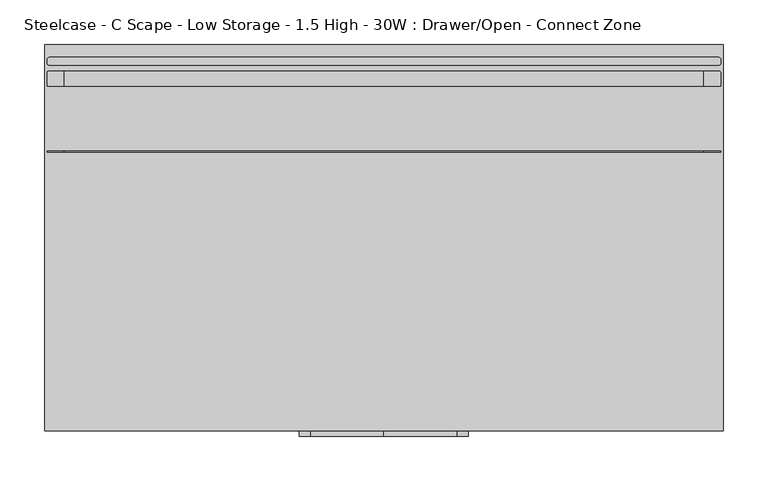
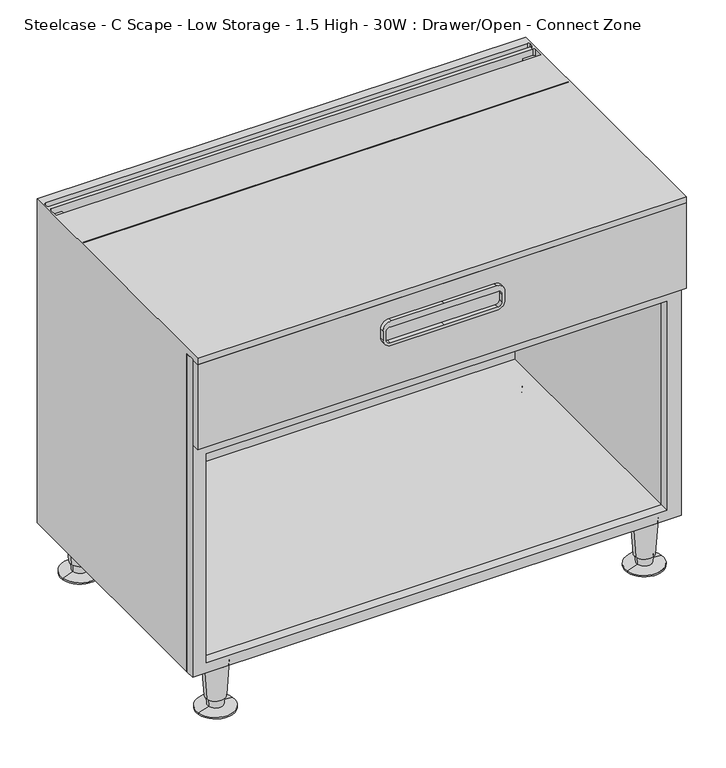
"""IFC4 building model written with IfcOpenShell, lengths in millimetres: furniture geometry, Steelcase - C Scape - Low Storage - 1.5 High - 30W : Drawer/Open - Connect Zone."""

from ifc_helpers import new_model, si_unit, point, frame, frame_2d, origin, place, context, project, spatial, polyline, circle_curve, trimmed, segment, composite_curve, outline, extrude, source, transform, mapped, element, save
from ifc_brep_helpers import plane_surface, cylinder_surface, revolved_surface, advanced_brep


def steelcase_c_scape_low_storage_1_5_high_30w_drawer_open_5091fc6d(model_context):
    return source(origin(), model_context, "Body", "SolidModel", [
        extrude(outline(polyline([(599.4499291, 0.0), (76.2, 0.0), (76.2, 760.73), (599.4499291, 760.73), (599.4499291, 320.0585382), (599.4499291, 0.0)]), holes=[polyline([(458.7875121, 21.3382324), (582.9399291, 21.3382324), (582.9399291, 738.7617285), (458.7875121, 738.7617285), (458.7875121, 21.3382324)]), polyline([(436.841904, 21.3256814), (436.841904, 738.7617285), (92.7100024, 738.7617285), (92.7100024, 21.3256814), (436.841904, 21.3256814)])]), frame((0.0, -419.3540543, 0.0), z_axis=(0.0, 1.0, 0.0), x_axis=(0.0, 0.0, 1.0)), (0.0, 0.0, 1.0), 14.9860039),
        extrude(outline(composite_curve([segment(trimmed(circle_curve(frame_2d((558.1749291, 297.8147442)), 12.7), [point((570.8749291, 297.8147442))], [point((558.1749291, 285.1147442))], False, "CARTESIAN"), True, "CONTINUOUS"), segment(polyline([(558.1749291, 285.1147442), (543.5699582, 285.1147442)]), True, "CONTINUOUS"), segment(trimmed(circle_curve(frame_2d((543.5699582, 297.8147442)), 12.7), [point((543.5699582, 285.1147442))], [point((530.8699582, 297.8147442))], False, "CARTESIAN"), True, "CONTINUOUS"), segment(polyline([(530.8699582, 297.8147442), (530.8699582, 380.0475), (530.8699582, 462.2802558)]), True, "CONTINUOUS"), segment(trimmed(circle_curve(frame_2d((543.5699582, 462.2802558)), 12.7), [point((530.8699582, 462.2802558))], [point((543.5699582, 474.9802558))], False, "CARTESIAN"), True, "CONTINUOUS"), segment(polyline([(543.5699582, 474.9802558), (558.1749291, 474.9802558)]), True, "CONTINUOUS"), segment(trimmed(circle_curve(frame_2d((558.1749291, 462.2802558)), 12.7), [point((558.1749291, 474.9802558))], [point((570.8749291, 462.2802558))], False, "CARTESIAN"), True, "CONTINUOUS"), segment(polyline([(570.8749291, 462.2802558), (570.8749291, 380.0475), (570.8749291, 297.8147442)]), True, "CONTINUOUS")], self_intersect=False), holes=[composite_curve([segment(trimmed(circle_curve(frame_2d((554.7459476, 296.2923565)), 6.35), [point((554.7459476, 289.9423565))], [point((561.0959476, 296.2923565))], True, "CARTESIAN"), True, "CONTINUOUS"), segment(polyline([(561.0959476, 296.2923565), (561.0959476, 380.0475), (561.0959476, 463.8026435)]), True, "CONTINUOUS"), segment(trimmed(circle_curve(frame_2d((554.7459476, 463.8026435)), 6.35), [point((561.0959476, 463.8026435))], [point((554.7459476, 470.1526435))], True, "CARTESIAN"), True, "CONTINUOUS"), segment(polyline([(554.7459476, 470.1526435), (542.0459354, 470.1526435)]), True, "CONTINUOUS"), segment(trimmed(circle_curve(frame_2d((542.0459354, 463.8026435)), 6.35), [point((542.0459354, 470.1526435))], [point((535.6959354, 463.8026435))], True, "CARTESIAN"), True, "CONTINUOUS"), segment(polyline([(535.6959354, 463.8026435), (535.6959354, 380.0475), (535.6959354, 296.2923565)]), True, "CONTINUOUS"), segment(trimmed(circle_curve(frame_2d((542.0459354, 296.2923565)), 6.35), [point((535.6959354, 296.2923565))], [point((542.0459354, 289.9423565))], True, "CARTESIAN"), True, "CONTINUOUS"), segment(polyline([(542.0459354, 289.9423565), (554.7459476, 289.9423565)]), True, "CONTINUOUS")], self_intersect=False)]), frame((0.0, -439.42, 0.0), z_axis=(0.0, 1.0, 0.0), x_axis=(0.0, 0.0, 1.0)), (0.0, 0.0, 1.0), 6.35),
        advanced_brep(
        [(65.5422821, -397.1702762, 76.2), (27.8805432, -402.9325174, 76.2), (46.7114126, -400.0513968, 76.2), (61.5919341, -397.774679, 19.05), (31.8308912, -402.3281146, 19.05), (59.1623471, -398.1464055, 19.05), (34.2604781, -401.9563882, 19.05), (58.4735776, -398.2517871, 5.7545598), (34.9492476, -401.8510065, 5.7545598), (75.8224611, -395.5974102, 2.5119506), (17.6003641, -404.5053834, 2.5119506), (75.8224611, -395.5974102, 0.0), (17.6003641, -404.5053834, 0.0), (46.7114126, -400.0513968, 0.0)],
        [
            (0, 1, circle_curve(frame((46.7114126, -400.0513968, 76.2), z_axis=(0.0, 0.0, 1.0), x_axis=(0.0, -1.0, 0.0)), 19.05)),
            (1, 2),
            (2, 0),
            (1, 0, circle_curve(frame((46.7114126, -400.0513968, 76.2), z_axis=(0.0, 0.0, 1.0), x_axis=(0.0, -1.0, 0.0)), 19.05)),
            (3, 4, circle_curve(frame((46.7114126, -400.0513968, 19.05), z_axis=(0.0, 0.0, 1.0), x_axis=(0.0, -1.0, 0.0)), 15.0536827)),
            (4, 1),
            (0, 3),
            (4, 3, circle_curve(frame((46.7114126, -400.0513968, 19.05), z_axis=(0.0, 0.0, 1.0), x_axis=(0.0, -1.0, 0.0)), 15.0536827)),
            (5, 6, circle_curve(frame((46.7114126, -400.0513968, 19.05), z_axis=(0.0, 0.0, 1.0), x_axis=(0.0, -1.0, 0.0)), 12.5958232)),
            (6, 4),
            (3, 5),
            (6, 5, circle_curve(frame((46.7114126, -400.0513968, 19.05), z_axis=(0.0, 0.0, 1.0), x_axis=(0.0, -1.0, 0.0)), 12.5958232)),
            (7, 8, circle_curve(frame((46.7114126, -400.0513968, 5.7545598), z_axis=(0.0, 0.0, 1.0), x_axis=(0.0, -1.0, 0.0)), 11.8990387)),
            (8, 6),
            (5, 7),
            (8, 7, circle_curve(frame((46.7114126, -400.0513968, 5.7545598), z_axis=(0.0, 0.0, 1.0), x_axis=(0.0, -1.0, 0.0)), 11.8990387)),
            (9, 10, circle_curve(frame((46.7114126, -400.0513968, 2.5119506), z_axis=(0.0, 0.0, 1.0), x_axis=(0.0, -1.0, 0.0)), 29.4498071)),
            (10, 8),
            (7, 9),
            (10, 9, circle_curve(frame((46.7114126, -400.0513968, 2.5119506), z_axis=(0.0, 0.0, 1.0), x_axis=(0.0, -1.0, 0.0)), 29.4498071)),
            (11, 12, circle_curve(frame((46.7114126, -400.0513968, 0.0), z_axis=(0.0, 0.0, 1.0), x_axis=(0.0, -1.0, 0.0)), 29.4498071)),
            (12, 10),
            (9, 11),
            (12, 11, circle_curve(frame((46.7114126, -400.0513968, 0.0), z_axis=(0.0, 0.0, 1.0), x_axis=(0.0, -1.0, 0.0)), 29.4498071)),
            (13, 12),
            (11, 13),
        ],
        [
            plane_surface(frame((46.7114126, -400.0513968, 76.2), z_axis=(0.0, 0.0, 1.0), x_axis=(0.0, -1.0, 0.0))),
            revolved_surface(polyline([(46.7114126, -419.1013968, 76.2), (46.7114126, -415.1050795, 19.05)]), (46.7114126, -400.0513968, 25.4), (0.0, 0.0, -1.0)),
            plane_surface(frame((46.7114126, -400.0513968, 19.05), z_axis=(0.0, 0.0, -1.0), x_axis=(0.0, -1.0, 0.0))),
            revolved_surface(polyline([(46.7114126, -412.64722, 19.05), (46.7114126, -411.9504355, 5.7545598)]), (46.7114126, -400.0513968, 25.4), (0.0, 0.0, -1.0)),
            revolved_surface(polyline([(46.7114126, -411.9504355, 5.7545598), (46.7114126, -429.5012039, 2.5119506)]), (46.7114126, -400.0513968, 25.4), (0.0, 0.0, -1.0)),
            cylinder_surface(frame((46.7114126, -400.0513968, 25.4), z_axis=(0.0, 0.0, -1.0), x_axis=(0.0, -1.0, 0.0)), 29.4498071),
            plane_surface(frame((46.7114126, -400.0513968, 0.0), z_axis=(0.0, 0.0, -1.0), x_axis=(0.0, -1.0, 0.0))),
        ],
        [
            (0, [[1, 2, 3]]),
            (0, [[4, -3, -2]]),
            (1, [[5, 6, -1, 7]]),
            (1, [[8, -7, -4, -6]]),
            (2, [[9, 10, -5, 11]]),
            (2, [[12, -11, -8, -10]]),
            (3, [[13, 14, -9, 15]]),
            (3, [[16, -15, -12, -14]]),
            (4, [[17, 18, -13, 19]]),
            (4, [[20, -19, -16, -18]]),
            (5, [[21, 22, -17, 23]]),
            (5, [[24, -23, -20, -22]]),
            (6, [[25, -21, 26]]),
            (6, [[-26, -24, -25]]),
        ],
    ),
        advanced_brep(
        [(733.4598695, -397.1702762, 76.2), (695.7981305, -402.9325174, 76.2), (714.629, -400.0513968, 76.2), (729.5095214, -397.774679, 19.05), (699.7484786, -402.3281146, 19.05), (727.0799345, -398.1464055, 19.05), (702.1780655, -401.9563882, 19.05), (726.391165, -398.2517871, 5.7545598), (702.866835, -401.8510065, 5.7545598), (743.7400485, -395.5974102, 2.5119506), (685.5179515, -404.5053834, 2.5119506), (743.7400485, -395.5974102, 0.0), (685.5179515, -404.5053834, 0.0), (714.629, -400.0513968, 0.0)],
        [
            (0, 1, circle_curve(frame((714.629, -400.0513968, 76.2), z_axis=(0.0, 0.0, 1.0), x_axis=(0.0, -1.0, 0.0)), 19.05)),
            (1, 2),
            (2, 0),
            (1, 0, circle_curve(frame((714.629, -400.0513968, 76.2), z_axis=(0.0, 0.0, 1.0), x_axis=(0.0, -1.0, 0.0)), 19.05)),
            (3, 4, circle_curve(frame((714.629, -400.0513968, 19.05), z_axis=(0.0, 0.0, 1.0), x_axis=(0.0, -1.0, 0.0)), 15.0536827)),
            (4, 1),
            (0, 3),
            (4, 3, circle_curve(frame((714.629, -400.0513968, 19.05), z_axis=(0.0, 0.0, 1.0), x_axis=(0.0, -1.0, 0.0)), 15.0536827)),
            (5, 6, circle_curve(frame((714.629, -400.0513968, 19.05), z_axis=(0.0, 0.0, 1.0), x_axis=(0.0, -1.0, 0.0)), 12.5958232)),
            (6, 4),
            (3, 5),
            (6, 5, circle_curve(frame((714.629, -400.0513968, 19.05), z_axis=(0.0, 0.0, 1.0), x_axis=(0.0, -1.0, 0.0)), 12.5958232)),
            (7, 8, circle_curve(frame((714.629, -400.0513968, 5.7545598), z_axis=(0.0, 0.0, 1.0), x_axis=(0.0, -1.0, 0.0)), 11.8990387)),
            (8, 6),
            (5, 7),
            (8, 7, circle_curve(frame((714.629, -400.0513968, 5.7545598), z_axis=(0.0, 0.0, 1.0), x_axis=(0.0, -1.0, 0.0)), 11.8990387)),
            (9, 10, circle_curve(frame((714.629, -400.0513968, 2.5119506), z_axis=(0.0, 0.0, 1.0), x_axis=(0.0, -1.0, 0.0)), 29.4498071)),
            (10, 8),
            (7, 9),
            (10, 9, circle_curve(frame((714.629, -400.0513968, 2.5119506), z_axis=(0.0, 0.0, 1.0), x_axis=(0.0, -1.0, 0.0)), 29.4498071)),
            (11, 12, circle_curve(frame((714.629, -400.0513968, 0.0), z_axis=(0.0, 0.0, 1.0), x_axis=(0.0, -1.0, 0.0)), 29.4498071)),
            (12, 10),
            (9, 11),
            (12, 11, circle_curve(frame((714.629, -400.0513968, 0.0), z_axis=(0.0, 0.0, 1.0), x_axis=(0.0, -1.0, 0.0)), 29.4498071)),
            (13, 12),
            (11, 13),
        ],
        [
            plane_surface(frame((714.629, -400.0513968, 76.2), z_axis=(0.0, 0.0, 1.0), x_axis=(0.0, -1.0, 0.0))),
            revolved_surface(polyline([(714.629, -419.1013968, 76.2), (714.629, -415.1050795, 19.05)]), (714.629, -400.0513968, 25.4), (0.0, 0.0, -1.0)),
            plane_surface(frame((714.629, -400.0513968, 19.05), z_axis=(0.0, 0.0, -1.0), x_axis=(0.0, -1.0, 0.0))),
            revolved_surface(polyline([(714.629, -412.64722, 19.05), (714.629, -411.9504355, 5.7545598)]), (714.629, -400.0513968, 25.4), (0.0, 0.0, -1.0)),
            revolved_surface(polyline([(714.629, -411.9504355, 5.7545598), (714.629, -429.5012039, 2.5119506)]), (714.629, -400.0513968, 25.4), (0.0, 0.0, -1.0)),
            cylinder_surface(frame((714.629, -400.0513968, 25.4), z_axis=(0.0, 0.0, -1.0), x_axis=(0.0, -1.0, 0.0)), 29.4498071),
            plane_surface(frame((714.629, -400.0513968, 0.0), z_axis=(0.0, 0.0, -1.0), x_axis=(0.0, -1.0, 0.0))),
        ],
        [
            (0, [[1, 2, 3]]),
            (0, [[4, -3, -2]]),
            (1, [[5, 6, -1, 7]]),
            (1, [[8, -7, -4, -6]]),
            (2, [[9, 10, -5, 11]]),
            (2, [[12, -11, -8, -10]]),
            (3, [[13, 14, -9, 15]]),
            (3, [[16, -15, -12, -14]]),
            (4, [[17, 18, -13, 19]]),
            (4, [[20, -19, -16, -18]]),
            (5, [[21, 22, -17, 23]]),
            (5, [[24, -23, -20, -22]]),
            (6, [[25, -21, 26]]),
            (6, [[-26, -24, -25]]),
        ],
    ),
        advanced_brep(
        [(733.4598695, -31.5218435, 76.2), (695.7981305, -37.2840847, 76.2), (714.629, -34.4029641, 76.2), (729.5095214, -32.1262463, 19.05), (699.7484786, -36.6796819, 19.05), (727.0799345, -32.4979728, 19.05), (702.1780655, -36.3079555, 19.05), (726.391165, -32.6033544, 5.7545598), (702.866835, -36.2025738, 5.7545598), (743.7400485, -29.9489775, 2.5119506), (685.5179515, -38.8569507, 2.5119506), (743.7400485, -29.9489775, 0.0), (685.5179515, -38.8569507, 0.0), (714.629, -34.4029641, 0.0)],
        [
            (0, 1, circle_curve(frame((714.629, -34.4029641, 76.2), z_axis=(0.0, 0.0, 1.0), x_axis=(0.0, -1.0, 0.0)), 19.05)),
            (1, 2),
            (2, 0),
            (1, 0, circle_curve(frame((714.629, -34.4029641, 76.2), z_axis=(0.0, 0.0, 1.0), x_axis=(0.0, -1.0, 0.0)), 19.05)),
            (3, 4, circle_curve(frame((714.629, -34.4029641, 19.05), z_axis=(0.0, 0.0, 1.0), x_axis=(0.0, -1.0, 0.0)), 15.0536827)),
            (4, 1),
            (0, 3),
            (4, 3, circle_curve(frame((714.629, -34.4029641, 19.05), z_axis=(0.0, 0.0, 1.0), x_axis=(0.0, -1.0, 0.0)), 15.0536827)),
            (5, 6, circle_curve(frame((714.629, -34.4029641, 19.05), z_axis=(0.0, 0.0, 1.0), x_axis=(0.0, -1.0, 0.0)), 12.5958232)),
            (6, 4),
            (3, 5),
            (6, 5, circle_curve(frame((714.629, -34.4029641, 19.05), z_axis=(0.0, 0.0, 1.0), x_axis=(0.0, -1.0, 0.0)), 12.5958232)),
            (7, 8, circle_curve(frame((714.629, -34.4029641, 5.7545598), z_axis=(0.0, 0.0, 1.0), x_axis=(0.0, -1.0, 0.0)), 11.8990387)),
            (8, 6),
            (5, 7),
            (8, 7, circle_curve(frame((714.629, -34.4029641, 5.7545598), z_axis=(0.0, 0.0, 1.0), x_axis=(0.0, -1.0, 0.0)), 11.8990387)),
            (9, 10, circle_curve(frame((714.629, -34.4029641, 2.5119506), z_axis=(0.0, 0.0, 1.0), x_axis=(0.0, -1.0, 0.0)), 29.4498071)),
            (10, 8),
            (7, 9),
            (10, 9, circle_curve(frame((714.629, -34.4029641, 2.5119506), z_axis=(0.0, 0.0, 1.0), x_axis=(0.0, -1.0, 0.0)), 29.4498071)),
            (11, 12, circle_curve(frame((714.629, -34.4029641, 0.0), z_axis=(0.0, 0.0, 1.0), x_axis=(0.0, -1.0, 0.0)), 29.4498071)),
            (12, 10),
            (9, 11),
            (12, 11, circle_curve(frame((714.629, -34.4029641, 0.0), z_axis=(0.0, 0.0, 1.0), x_axis=(0.0, -1.0, 0.0)), 29.4498071)),
            (13, 12),
            (11, 13),
        ],
        [
            plane_surface(frame((714.629, -34.4029641, 76.2), z_axis=(0.0, 0.0, 1.0), x_axis=(0.0, -1.0, 0.0))),
            revolved_surface(polyline([(714.629, -53.4529641, 76.2), (714.629, -49.4566468, 19.05)]), (714.629, -34.4029641, 25.4), (0.0, 0.0, -1.0)),
            plane_surface(frame((714.629, -34.4029641, 19.05), z_axis=(0.0, 0.0, -1.0), x_axis=(0.0, -1.0, 0.0))),
            revolved_surface(polyline([(714.629, -46.9987873, 19.05), (714.629, -46.3020028, 5.7545598)]), (714.629, -34.4029641, 25.4), (0.0, 0.0, -1.0)),
            revolved_surface(polyline([(714.629, -46.3020028, 5.7545598), (714.629, -63.8527712, 2.5119506)]), (714.629, -34.4029641, 25.4), (0.0, 0.0, -1.0)),
            cylinder_surface(frame((714.629, -34.4029641, 25.4), z_axis=(0.0, 0.0, -1.0), x_axis=(0.0, -1.0, 0.0)), 29.4498071),
            plane_surface(frame((714.629, -34.4029641, 0.0), z_axis=(0.0, 0.0, -1.0), x_axis=(0.0, -1.0, 0.0))),
        ],
        [
            (0, [[1, 2, 3]]),
            (0, [[4, -3, -2]]),
            (1, [[5, 6, -1, 7]]),
            (1, [[8, -7, -4, -6]]),
            (2, [[9, 10, -5, 11]]),
            (2, [[12, -11, -8, -10]]),
            (3, [[13, 14, -9, 15]]),
            (3, [[16, -15, -12, -14]]),
            (4, [[17, 18, -13, 19]]),
            (4, [[20, -19, -16, -18]]),
            (5, [[21, 22, -17, 23]]),
            (5, [[24, -23, -20, -22]]),
            (6, [[25, -21, 26]]),
            (6, [[-26, -24, -25]]),
        ],
    ),
        advanced_brep(
        [(65.5422821, -31.5218435, 76.2), (27.8805432, -37.2840847, 76.2), (46.7114126, -34.4029641, 76.2), (61.5919341, -32.1262463, 19.05), (31.8308912, -36.6796819, 19.05), (59.1623471, -32.4979728, 19.05), (34.2604781, -36.3079555, 19.05), (58.4735776, -32.6033544, 5.7545598), (34.9492476, -36.2025738, 5.7545598), (75.8224611, -29.9489775, 2.5119506), (17.6003641, -38.8569507, 2.5119506), (75.8224611, -29.9489775, 0.0), (17.6003641, -38.8569507, 0.0), (46.7114126, -34.4029641, 0.0)],
        [
            (0, 1, circle_curve(frame((46.7114126, -34.4029641, 76.2), z_axis=(0.0, 0.0, 1.0), x_axis=(0.0, -1.0, 0.0)), 19.05)),
            (1, 2),
            (2, 0),
            (1, 0, circle_curve(frame((46.7114126, -34.4029641, 76.2), z_axis=(0.0, 0.0, 1.0), x_axis=(0.0, -1.0, 0.0)), 19.05)),
            (3, 4, circle_curve(frame((46.7114126, -34.4029641, 19.05), z_axis=(0.0, 0.0, 1.0), x_axis=(0.0, -1.0, 0.0)), 15.0536827)),
            (4, 1),
            (0, 3),
            (4, 3, circle_curve(frame((46.7114126, -34.4029641, 19.05), z_axis=(0.0, 0.0, 1.0), x_axis=(0.0, -1.0, 0.0)), 15.0536827)),
            (5, 6, circle_curve(frame((46.7114126, -34.4029641, 19.05), z_axis=(0.0, 0.0, 1.0), x_axis=(0.0, -1.0, 0.0)), 12.5958232)),
            (6, 4),
            (3, 5),
            (6, 5, circle_curve(frame((46.7114126, -34.4029641, 19.05), z_axis=(0.0, 0.0, 1.0), x_axis=(0.0, -1.0, 0.0)), 12.5958232)),
            (7, 8, circle_curve(frame((46.7114126, -34.4029641, 5.7545598), z_axis=(0.0, 0.0, 1.0), x_axis=(0.0, -1.0, 0.0)), 11.8990387)),
            (8, 6),
            (5, 7),
            (8, 7, circle_curve(frame((46.7114126, -34.4029641, 5.7545598), z_axis=(0.0, 0.0, 1.0), x_axis=(0.0, -1.0, 0.0)), 11.8990387)),
            (9, 10, circle_curve(frame((46.7114126, -34.4029641, 2.5119506), z_axis=(0.0, 0.0, 1.0), x_axis=(0.0, -1.0, 0.0)), 29.4498071)),
            (10, 8),
            (7, 9),
            (10, 9, circle_curve(frame((46.7114126, -34.4029641, 2.5119506), z_axis=(0.0, 0.0, 1.0), x_axis=(0.0, -1.0, 0.0)), 29.4498071)),
            (11, 12, circle_curve(frame((46.7114126, -34.4029641, 0.0), z_axis=(0.0, 0.0, 1.0), x_axis=(0.0, -1.0, 0.0)), 29.4498071)),
            (12, 10),
            (9, 11),
            (12, 11, circle_curve(frame((46.7114126, -34.4029641, 0.0), z_axis=(0.0, 0.0, 1.0), x_axis=(0.0, -1.0, 0.0)), 29.4498071)),
            (13, 12),
            (11, 13),
        ],
        [
            plane_surface(frame((46.7114126, -34.4029641, 76.2), z_axis=(0.0, 0.0, 1.0), x_axis=(0.0, -1.0, 0.0))),
            revolved_surface(polyline([(46.7114126, -53.4529641, 76.2), (46.7114126, -49.4566468, 19.05)]), (46.7114126, -34.4029641, 25.4), (0.0, 0.0, -1.0)),
            plane_surface(frame((46.7114126, -34.4029641, 19.05), z_axis=(0.0, 0.0, -1.0), x_axis=(0.0, -1.0, 0.0))),
            revolved_surface(polyline([(46.7114126, -46.9987873, 19.05), (46.7114126, -46.3020028, 5.7545598)]), (46.7114126, -34.4029641, 25.4), (0.0, 0.0, -1.0)),
            revolved_surface(polyline([(46.7114126, -46.3020028, 5.7545598), (46.7114126, -63.8527712, 2.5119506)]), (46.7114126, -34.4029641, 25.4), (0.0, 0.0, -1.0)),
            cylinder_surface(frame((46.7114126, -34.4029641, 25.4), z_axis=(0.0, 0.0, -1.0), x_axis=(0.0, -1.0, 0.0)), 29.4498071),
            plane_surface(frame((46.7114126, -34.4029641, 0.0), z_axis=(0.0, 0.0, -1.0), x_axis=(0.0, -1.0, 0.0))),
        ],
        [
            (0, [[1, 2, 3]]),
            (0, [[4, -3, -2]]),
            (1, [[5, 6, -1, 7]]),
            (1, [[8, -7, -4, -6]]),
            (2, [[9, 10, -5, 11]]),
            (2, [[12, -11, -8, -10]]),
            (3, [[13, 14, -9, 15]]),
            (3, [[16, -15, -12, -14]]),
            (4, [[17, 18, -13, 19]]),
            (4, [[20, -19, -16, -18]]),
            (5, [[21, 22, -17, 23]]),
            (5, [[24, -23, -20, -22]]),
            (6, [[25, -21, 26]]),
            (6, [[-26, -24, -25]]),
        ],
    ),
        advanced_brep(
        [(757.9272317, -120.6444193, 609.6), (757.9272317, -119.3775195, 609.6), (757.9272317, -119.3775195, 599.4499291), (757.9272317, -120.6444193, 599.4499291), (757.9272317, -46.4703418, 609.6), (757.9272317, -32.274699, 609.6), (757.9272317, -32.274699, 599.4499291), (757.9272317, -46.4703418, 599.4499291), (757.9272317, -20.3138654, 609.6), (757.9272317, -17.0388453, 609.6), (757.9272317, -17.0388453, 599.4499291), (757.9272317, -20.3138654, 599.4499291), (760.73, 0.0055807, 609.6), (760.73, -433.07, 609.6), (760.73, -433.07, 599.4499291), (760.73, -404.3680504, 599.4499291), (760.73, -404.3680504, 76.2), (760.73, 0.0, 76.2), (0.0, -433.07, 609.6), (-0.012551, 0.0055807, 609.6), (755.2308823, -29.5783496, 609.6), (2.7826272, -46.4703418, 609.6), (2.7826272, -32.0458511, 609.6), (5.2501287, -29.5783496, 609.6), (754.9507358, -23.2903613, 609.6), (5.5670648, -23.2903613, 609.6), (2.7826272, -20.5059237, 609.6), (2.7826272, -17.0388453, 609.6), (5.4794022, -14.3420703, 609.6), (755.2304567, -14.3420703, 609.6), (2.7826272, -119.3775195, 609.6), (2.7826272, -120.6444193, 609.6), (0.0, 0.0055807, 76.2), (495.6775189, 0.0055807, 466.2677968), (264.4174811, 0.0055807, 466.2677968), (264.4174811, 0.0055807, 432.6382043), (380.0475, 0.0055807, 432.6382043), (495.6775189, 0.0055807, 432.6382043), (495.6775189, -9.5194193, 466.2677968), (264.4174811, -9.5194193, 466.2677968), (495.6775189, -9.5194193, 450.8499879), (264.4174811, -9.5194193, 450.8499879), (5.2501287, -29.5783496, 599.4499291), (21.3256814, -29.5783496, 599.4499291), (21.3256814, -29.5783496, 458.7875121), (738.7491775, -29.5783496, 458.7875121), (738.7491775, -29.5783496, 599.4499291), (755.2308823, -29.5783496, 599.4499291), (738.7491775, -119.3775195, 599.4499291), (21.3256814, -119.3775195, 599.4499291), (21.3256814, -46.4703418, 599.4499291), (738.7491775, -46.4703418, 599.4499291), (754.9507358, -23.2903613, 599.4499291), (5.5670648, -23.2903613, 599.4499291), (2.7826272, -20.5059237, 599.4499291), (2.7826272, -32.0458511, 599.4499291), (2.7826272, -46.4703418, 599.4499291), (2.7826272, -119.3775195, 599.4499291), (5.4794022, -14.3420703, 599.4499291), (755.2304567, -14.3420703, 599.4499291), (2.7826272, -17.0388453, 599.4499291), (21.3256814, -120.6444193, 599.4499291), (2.7826272, -120.6444193, 599.4499291), (738.7491775, -120.6444193, 599.4499291), (21.3256814, -404.3680504, 92.7100024), (738.7491775, -404.3680504, 92.7100024), (738.7491775, -9.5194193, 92.7100024), (21.3256814, -9.5194193, 92.7100024), (0.0, -404.3680504, 76.2), (0.0, -404.3680504, 599.4499291), (0.0, -433.07, 599.4499291), (738.7491775, -404.3680504, 599.4499291), (738.7491775, -404.3680504, 458.7875121), (21.3256814, -404.3680504, 458.7875121), (21.3256814, -404.3680504, 599.4499291), (21.3256814, -404.3680504, 450.8499879), (738.7491775, -404.3680504, 450.8499879), (21.3256814, -126.9863574, 599.4499291), (738.7491775, -126.9863574, 599.4499291), (21.3256814, -126.9863574, 458.7875121), (738.7491775, -126.9863574, 458.7875121), (738.7491775, -120.6444193, 458.7875121), (21.3256814, -120.6444193, 458.7875121), (21.3256814, -9.5194193, 450.8499879), (738.7491775, -9.5194193, 450.8499879), (495.6775189, -9.5194193, 432.6382043), (380.0475, -9.5194193, 432.6382043), (264.4174811, -9.5194193, 432.6382043)],
        [
            (0, 1),
            (1, 2),
            (2, 3),
            (3, 0),
            (4, 5),
            (5, 6),
            (6, 7),
            (7, 4),
            (8, 9),
            (9, 10),
            (10, 11),
            (11, 8),
            (12, 13),
            (13, 14),
            (14, 15),
            (15, 16),
            (16, 17),
            (17, 12),
            (18, 13),
            (12, 19),
            (19, 18),
            (20, 5, circle_curve(frame((755.2308823, -32.274699, 609.6), z_axis=(0.0, 0.0, -1.0), x_axis=(1.0, 0.0, 0.0)), 2.6963494)),
            (4, 21),
            (21, 22),
            (22, 23, circle_curve(frame((5.2501287, -32.0458511, 609.6), z_axis=(0.0, 0.0, -1.0), x_axis=(1.0, 0.0, 0.0)), 2.4675015)),
            (23, 20),
            (8, 24, circle_curve(frame((754.9507358, -20.3138654, 609.6), z_axis=(0.0, 0.0, -1.0), x_axis=(1.0, 0.0, 0.0)), 2.9764959)),
            (24, 25),
            (25, 26, circle_curve(frame((5.5670648, -20.5059237, 609.6), z_axis=(0.0, 0.0, -1.0), x_axis=(1.0, 0.0, 0.0)), 2.7844376)),
            (26, 27),
            (27, 28, circle_curve(frame((5.4794022, -17.0388453, 609.6), z_axis=(0.0, 0.0, -1.0), x_axis=(1.0, 0.0, 0.0)), 2.696775)),
            (28, 29),
            (29, 9, circle_curve(frame((755.2304567, -17.0388453, 609.6), z_axis=(0.0, 0.0, -1.0), x_axis=(1.0, 0.0, 0.0)), 2.696775)),
            (30, 1),
            (0, 31),
            (31, 30),
            (17, 32),
            (32, 19),
            (33, 34),
            (34, 35),
            (35, 36),
            (36, 37),
            (37, 33),
            (33, 38),
            (38, 39),
            (39, 34),
            (38, 40),
            (40, 41),
            (41, 39),
            (23, 42),
            (42, 43),
            (43, 44),
            (44, 45),
            (45, 46),
            (46, 47),
            (47, 20),
            (48, 49),
            (49, 50),
            (50, 51),
            (51, 48),
            (47, 6, circle_curve(frame((755.2308823, -32.274699, 599.4499291), z_axis=(0.0, 0.0, -1.0), x_axis=(1.0, 0.0, 0.0)), 2.6963494)),
            (11, 52, circle_curve(frame((754.9507358, -20.3138654, 599.4499291), z_axis=(0.0, 0.0, -1.0), x_axis=(1.0, 0.0, 0.0)), 2.9764959)),
            (52, 24),
            (52, 53),
            (53, 25),
            (53, 54, circle_curve(frame((5.5670648, -20.5059237, 599.4499291), z_axis=(0.0, 0.0, -1.0), x_axis=(1.0, 0.0, 0.0)), 2.7844376)),
            (54, 26),
            (22, 55),
            (55, 42, circle_curve(frame((5.2501287, -32.0458511, 599.4499291), z_axis=(0.0, 0.0, -1.0), x_axis=(1.0, 0.0, 0.0)), 2.4675015)),
            (7, 51),
            (50, 56),
            (56, 21),
            (30, 57),
            (57, 49),
            (48, 2),
            (28, 58),
            (58, 59),
            (59, 29),
            (59, 10, circle_curve(frame((755.2304567, -17.0388453, 599.4499291), z_axis=(0.0, 0.0, -1.0), x_axis=(1.0, 0.0, 0.0)), 2.696775)),
            (27, 60),
            (60, 58, circle_curve(frame((5.4794022, -17.0388453, 599.4499291), z_axis=(0.0, 0.0, -1.0), x_axis=(1.0, 0.0, 0.0)), 2.696775)),
            (61, 49),
            (57, 62),
            (62, 61),
            (48, 63),
            (63, 3),
            (60, 54),
            (50, 43),
            (55, 56),
            (46, 51),
            (64, 65),
            (65, 66),
            (66, 67),
            (67, 64),
            (16, 68),
            (68, 32),
            (68, 69),
            (69, 70),
            (70, 18),
            (15, 71),
            (71, 72),
            (72, 73),
            (73, 74),
            (74, 69),
            (64, 75),
            (75, 76),
            (76, 65),
            (70, 14),
            (74, 77),
            (77, 78),
            (78, 71),
            (77, 79),
            (79, 80),
            (80, 78),
            (63, 81),
            (81, 82),
            (82, 61),
            (62, 31),
            (44, 82),
            (81, 45),
            (79, 73),
            (72, 80),
            (75, 83),
            (83, 41),
            (40, 84),
            (84, 76),
            (67, 83),
            (84, 66),
            (85, 86),
            (86, 87),
            (87, 41),
            (40, 85),
            (37, 85),
            (36, 86),
            (35, 87),
        ],
        [
            plane_surface(frame((757.9272317, -120.6444193, 609.6), z_axis=(-1.0, 0.0, 0.0), x_axis=(0.0, -1.4185860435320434e-12, 1.0))),
            plane_surface(frame((760.73, -120.6444193, 609.6), z_axis=(1.0, 0.0, 0.0), x_axis=(0.0, 1.4185860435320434e-12, -1.0))),
            plane_surface(frame((757.9272317, -120.6444193, 609.6), z_axis=(0.0, 0.0, 1.0), x_axis=(1.0, 0.0, 0.0))),
            plane_surface(frame((757.9272317, 0.0055807, 609.6), z_axis=(0.0, 1.0, 0.0), x_axis=(1.0, 0.0, 0.0))),
            plane_surface(frame((757.9272317, 0.0055807, 466.2677968), z_axis=(0.0, 0.0, -1.0), x_axis=(1.0, 0.0, 0.0))),
            plane_surface(frame((757.9272317, -9.5194193, 466.2677968), z_axis=(0.0, 1.0, 0.0), x_axis=(1.0, 0.0, 0.0))),
            plane_surface(frame((757.9272317, -29.5783496, 458.7875121), z_axis=(0.0, -1.0, 0.0), x_axis=(1.0, 0.0, 0.0))),
            plane_surface(frame((757.9272317, -29.5783496, 599.4499291), z_axis=(0.0, 0.0, -1.0), x_axis=(1.0, 0.0, 0.0))),
            revolved_surface(polyline([(757.9272317, -32.274699, 599.4499291), (757.9272317, -32.274699, 609.6)]), (755.2308823, -32.274699, 599.4499291), (0.0, 0.0, -1.0)),
            revolved_surface(polyline([(757.9272317, -20.3138654, 599.4499291), (757.9272317, -20.3138654, 609.6)]), (754.9507358, -20.3138654, 599.4499291), (0.0, 0.0, -1.0)),
            plane_surface(frame((754.9507358, -23.2903613, 609.6), z_axis=(0.0, 1.0, 0.0), x_axis=(0.0, 0.0, -1.0))),
            revolved_surface(polyline([(8.3515024, -20.5059237, 599.4499291), (8.3515024, -20.5059237, 609.6)]), (5.5670648, -20.5059237, 599.4499291), (0.0, 0.0, -1.0)),
            revolved_surface(polyline([(7.7176302, -32.0458511, 599.4499291), (7.7176302, -32.0458511, 609.6)]), (5.2501287, -32.0458511, 599.4499291), (0.0, 0.0, -1.0)),
            plane_surface(frame((757.9272317, -46.4703418, 609.6), z_axis=(0.0, 1.0, 0.0), x_axis=(0.0, 0.0, -1.0))),
            plane_surface(frame((2.7826272, -119.3775195, 609.6), z_axis=(0.0, -1.0, 0.0), x_axis=(0.0, 0.0, -1.0))),
            plane_surface(frame((5.4794022, -14.3420703, 609.6), z_axis=(0.0, -1.0, 0.0), x_axis=(0.0, 0.0, -1.0))),
            revolved_surface(polyline([(757.9272317, -17.0388453, 599.4499291), (757.9272317, -17.0388453, 609.6)]), (755.2304567, -17.0388453, 41.6295811), (0.0, 0.0, -1.0)),
            revolved_surface(polyline([(8.1761772, -17.0388453, 599.4499291), (8.1761772, -17.0388453, 609.6)]), (5.4794022, -17.0388453, 41.6295811), (0.0, 0.0, -1.0)),
            plane_surface(frame((757.9272317, 0.0055807, 599.4499291), z_axis=(0.0, 0.0, 1.0), x_axis=(-1.0, 0.0, 0.0))),
            plane_surface(frame((0.0, 0.0, 92.7100024), z_axis=(0.0, 0.0, 1.0), x_axis=(-1.0, 0.0, 0.0))),
            plane_surface(frame((0.0, 0.0, 76.2), z_axis=(0.0, 0.0, -1.0), x_axis=(1.0, 0.0, 0.0))),
            plane_surface(frame((0.0, 0.0, 92.7100024), z_axis=(-1.0, 0.0, 0.0), x_axis=(0.0, 0.0, -1.0))),
            plane_surface(frame((0.0, -404.3680504, 92.7100024), z_axis=(0.0, -1.0, 0.0), x_axis=(0.0, 0.0, -1.0))),
            plane_surface(frame((760.73, -433.07, 609.6), z_axis=(0.0, -1.0, 0.0), x_axis=(-1.0, 0.0, 0.0))),
            plane_surface(frame((760.73, -433.07, 599.4499291), z_axis=(0.0, 0.0, -1.0), x_axis=(-1.0, 0.0, 0.0))),
            plane_surface(frame((760.73, -126.9863574, 599.4499291), z_axis=(0.0, -1.0, 0.0), x_axis=(-1.0, 0.0, 0.0))),
            plane_surface(frame((760.73, -120.6444193, 457.1999955), z_axis=(0.0, 1.0, 0.0), x_axis=(-1.0, 0.0, 0.0))),
            plane_surface(frame((0.0, -9.5194193, 458.7875121), z_axis=(0.0, 0.0, 1.0), x_axis=(-1.0, 0.0, 0.0))),
            plane_surface(frame((0.0, -9.5194193, 450.8499879), z_axis=(0.0, 0.0, -1.0), x_axis=(1.0, 0.0, 0.0))),
            plane_surface(frame((21.3256814, -404.3680504, 599.4499291), z_axis=(1.0, 0.0, 0.0), x_axis=(0.0, 0.0, -1.0))),
            plane_surface(frame((738.7491775, -9.5194193, 599.4499291), z_axis=(-1.0, 0.0, 0.0), x_axis=(0.0, 0.0, -1.0))),
            plane_surface(frame((2.7826272, -120.6444193, 599.4499291), z_axis=(1.0, 0.0, 0.0), x_axis=(0.0, 1.0, 0.0))),
            plane_surface(frame((495.6775189, -9.5194193, 459.9177968), z_axis=(0.0, -1.0, 0.0), x_axis=(0.0, 0.0, -1.0))),
            plane_surface(frame((495.6775189, -9.5194193, 466.2677968), z_axis=(-1.0, 0.0, 0.0), x_axis=(0.0, 1.0, 0.0))),
            plane_surface(frame((495.6775189, -9.5194193, 432.6382043), z_axis=(0.0, 0.0, 1.0), x_axis=(0.0, 1.0, 0.0))),
            plane_surface(frame((380.0475, -9.5194193, 432.6382043), z_axis=(0.0, 0.0, 1.0), x_axis=(0.0, 1.0, 0.0))),
            plane_surface(frame((264.4174811, -9.5194193, 432.6382043), z_axis=(1.0, 0.0, 0.0), x_axis=(0.0, 1.0, 0.0))),
        ],
        [
            (0, [[1, 2, 3, 4]]),
            (0, [[5, 6, 7, 8]]),
            (0, [[9, 10, 11, 12]]),
            (1, [[13, 14, 15, 16, 17, 18]]),
            (2, [[19, -13, 20, 21], [22, -5, 23, 24, 25, 26], [27, 28, 29, 30, 31, 32, 33, -9], [34, -1, 35, 36]]),
            (3, [[-18, 37, 38, -20], [39, 40, 41, 42, 43]]),
            (4, [[-39, 44, 45, 46]]),
            (5, [[-45, 47, 48, 49]]),
            (6, [[-26, 50, 51, 52, 53, 54, 55, 56]]),
            (7, [[57, 58, 59, 60]]),
            (8, [[-22, -56, 61, -6]]),
            (9, [[-27, -12, 62, 63]]),
            (10, [[-28, -63, 64, 65]]),
            (11, [[-29, -65, 66, 67]]),
            (12, [[-25, 68, 69, -50]]),
            (13, [[-23, -8, 70, -59, 71, 72]]),
            (14, [[-34, 73, 74, -57, 75, -2]]),
            (15, [[-32, 76, 77, 78]]),
            (16, [[-33, -78, 79, -10]]),
            (17, [[-31, 80, 81, -76]]),
            (18, [[82, -74, 83, 84]]),
            (18, [[85, 86, -3, -75]]),
            (18, [[-11, -79, -77, -81, 87, -66, -64, -62]]),
            (18, [[88, -51, -69, 89, -71]]),
            (18, [[90, -70, -7, -61, -55]]),
            (19, [[91, 92, 93, 94]]),
            (20, [[-17, 95, 96, -37]]),
            (21, [[-38, -96, 97, 98, 99, -21]]),
            (22, [[-95, -16, 100, 101, 102, 103, 104, -97], [-91, 105, 106, 107]]),
            (23, [[-14, -19, -99, 108]]),
            (24, [[-108, -98, -104, 109, 110, 111, -100, -15]]),
            (25, [[-110, 112, 113, 114]]),
            (26, [[-4, -86, 115, 116, 117, -84, 118, -35]]),
            (27, [[-53, 119, -116, 120]]),
            (27, [[-113, 121, -102, 122]]),
            (28, [[-106, 123, 124, -48, 125, 126]]),
            (29, [[-103, -121, -112, -109]]),
            (29, [[-105, -94, 127, -123]]),
            (29, [[-88, -58, -82, -117, -119, -52]]),
            (30, [[-101, -111, -114, -122]]),
            (30, [[-107, -126, 128, -92]]),
            (30, [[-90, -54, -120, -115, -85, -60]]),
            (31, [[-24, -72, -89, -68]]),
            (31, [[-30, -67, -87, -80]]),
            (31, [[-36, -118, -83, -73]]),
            (32, [[129, 130, 131, -124, -127, -93, -128, -125, 132]]),
            (33, [[-43, 133, -132, -47, -44]]),
            (34, [[-129, -133, -42, 134]]),
            (35, [[-130, -134, -41, 135]]),
            (36, [[-40, -46, -49, -131, -135]]),
        ],
    ),
        extrude(outline(polyline([(760.73, -419.3540543), (760.73, -433.07), (0.0, -433.07), (0.0, -419.3540543), (760.73, -419.3540543)])), frame((0.0, 0.0, 458.7875121), z_axis=(0.0, 0.0, 1.0), x_axis=(1.0, 0.0, 0.0)), (0.0, 0.0, 1.0), 140.662417),
    ])


if __name__ == "__main__":
    model = new_model("IFC4")
    model_context = context("Model", 3, world=origin())
    ifc_project = project(units=[si_unit("LENGTHUNIT", "METRE", prefix="MILLI")], contexts=[model_context])
    site = spatial("IfcSite", under=ifc_project)
    building = spatial("IfcBuilding", under=site)
    placement = place(None, origin())
    steelcase_c_scape_low_storage_1_5_high_30w_drawer_open_shape = steelcase_c_scape_low_storage_1_5_high_30w_drawer_open_5091fc6d(model_context)
    element("IfcFurniture", 1, ObjectType="Steelcase - C Scape - Low Storage - 1.5 High - 30W : Drawer/Open - Connect Zone", at=placement, inside=building, context=model_context, shape_type="MappedRepresentation", body=[
        mapped(steelcase_c_scape_low_storage_1_5_high_30w_drawer_open_shape, transform((0.0, 0.0, 0.0), x_axis=(1.0, 0.0, 0.0), y_axis=(0.0, 1.0, 0.0), z_axis=(0.0, 0.0, 1.0))),
    ])
    save(model, "model.ifc")
